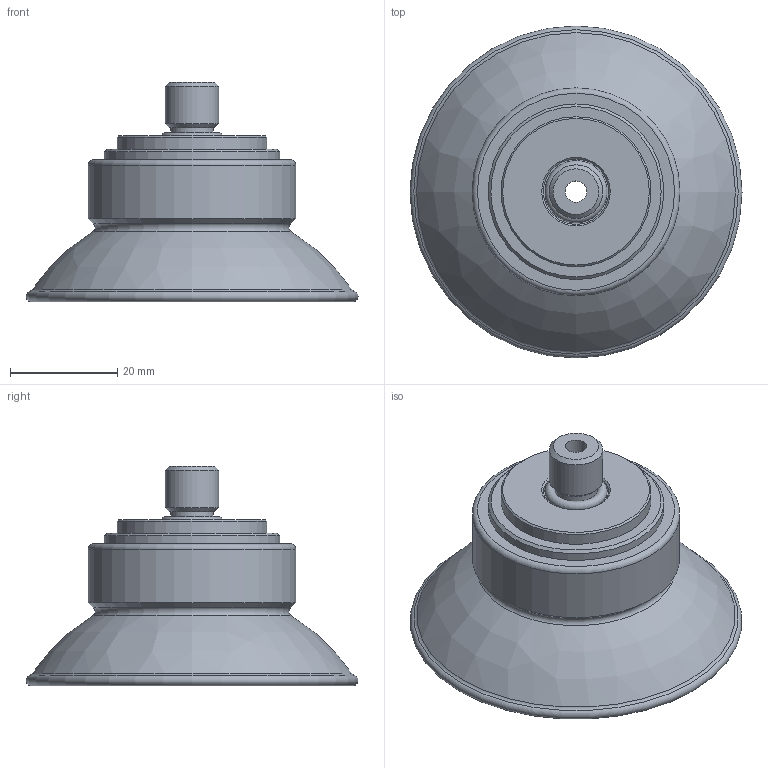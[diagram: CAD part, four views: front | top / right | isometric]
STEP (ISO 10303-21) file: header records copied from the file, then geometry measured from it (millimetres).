
FILE_DESCRIPTION( ( 'Unknown' ), '1' );
FILE_NAME( 'D:/弥龋覆(冠固急)/Smart Cup/寇何侩-唱荤魂TYPE/FCF60-M10M.stp', 'Unknown', ( 'Unknown' ), ( 'Unknown' ), 'PSStep 10.0', 'Unknown', ' ' );
FILE_SCHEMA( ( 'AUTOMOTIVE_DESIGN { 1 0 10303 214 1 1 1 1 }' ) );
Length unit declared in the file: millimetre
Products named in the file (4): Assem1; FCF60; VDF-FCF-M10M; M10M-oring
Bounding box: 62 x 62 x 41 mm (x, y, z)
Volume: 50573.2 mm3; surface area: 37933.3 mm2
Topology: 6 solids, 6 shells, 138 faces, 238 edges, 138 vertices
Faces by surface type: cylinder 42, cone 38, plane 38, torus 14, bspline 6
Full cylindrical faces by diameter (mm): 4 x2, 6.928 x2, 7.5 x2, 8 x2, 9.5 x2, 10 x2, 12.2 x2, 16 x8, 16.8 x4, 28 x2, 30.8 x4, 32.8 x6, 38.8 x2, 49.446 x2
Entity records: 2072 total; most frequent: CARTESIAN_POINT 290, DIRECTION 276, AXIS2_PLACEMENT_3D 138, EDGE_LOOP 136, ORIENTED_EDGE 136, FACE_OUTER_BOUND 98, STYLED_ITEM 69, PRESENTATION_STYLE_ASSIGNMENT 69
